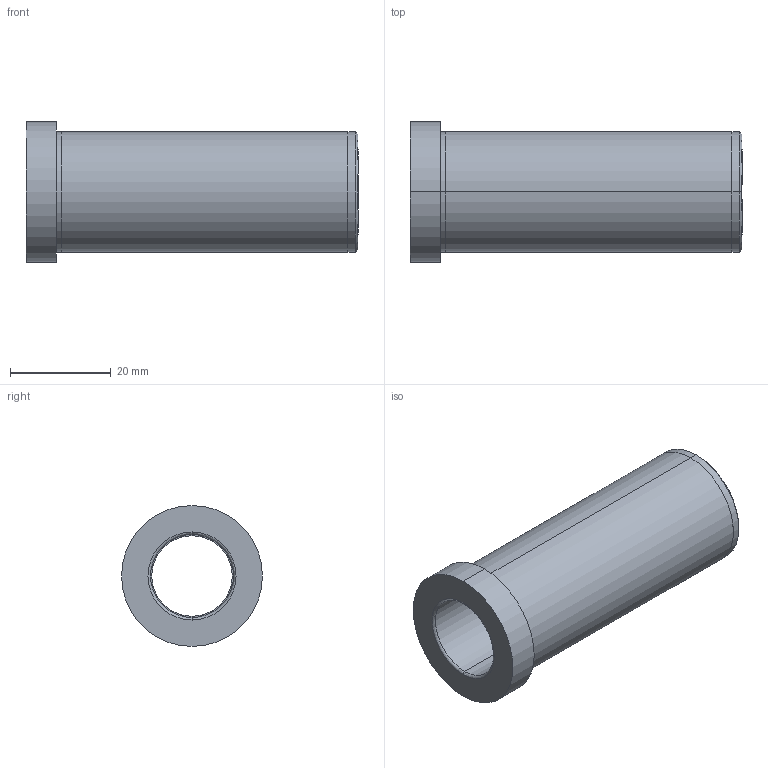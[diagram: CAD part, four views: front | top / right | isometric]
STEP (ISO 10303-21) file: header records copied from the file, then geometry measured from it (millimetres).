
FILE_DESCRIPTION( ( 'STEP AP203' ), '1' );
FILE_NAME( 'D:/Delta 3 D/D20/D20 - 16x66.step', '2002-12-31T23:36:09', ( ' ' ), ( ' ' ), 'XStep 1.0', ' ', ' ' );
FILE_SCHEMA( ( 'CONFIG_CONTROL_DESIGN' ) );
Length unit declared in the file: metre
Products named in the file (1): 1
Bounding box: 66 x 28 x 28 mm (x, y, z)
Volume: 17366.2 mm3; surface area: 9187.8 mm2
Topology: 1 solids, 1 shells, 24 faces, 48 edges, 30 vertices
Faces by surface type: revolution 14, bspline 10
Entity records: 755 total; most frequent: CARTESIAN_POINT 221, ORIENTED_EDGE 96, DIRECTION 90, EDGE_CURVE 48, AXIS2_PLACEMENT_3D 31, EDGE_LOOP 30, VERTEX_POINT 30, CIRCLE 30
